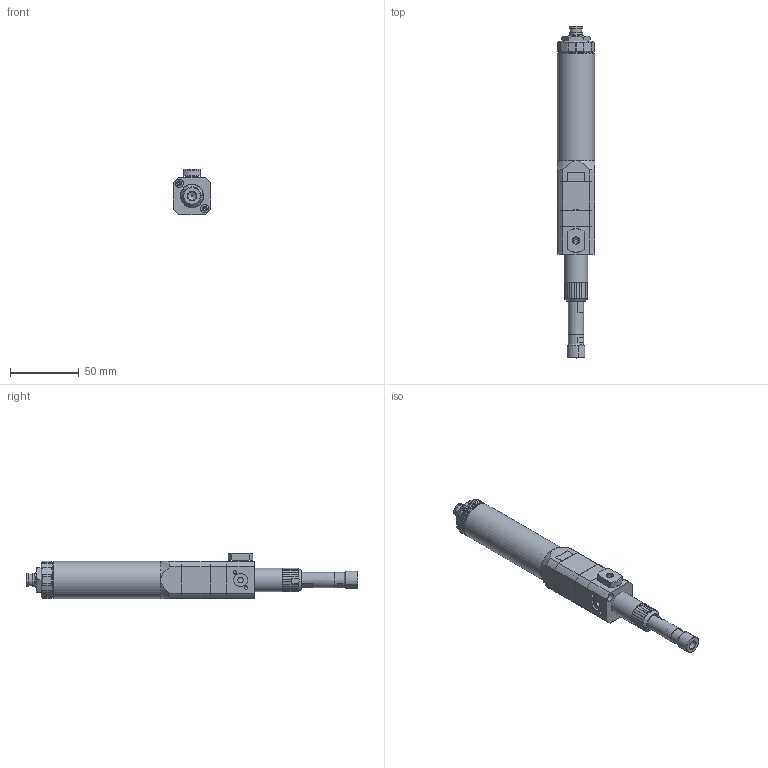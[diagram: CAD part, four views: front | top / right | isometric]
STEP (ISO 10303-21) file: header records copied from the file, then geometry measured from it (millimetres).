
FILE_DESCRIPTION (( 'STEP AP214' ), '1' );
FILE_NAME ('PCPM-005-18.STEP', '2024-10-11T10:27:00', ( '' ), ( '' ), 'SwSTEP 2.0', 'SolidWorks 2024', '' );
FILE_SCHEMA (( 'AUTOMOTIVE_DESIGN' ));
Length unit declared in the file: millimetre
Products named in the file (1): PCPM-005-18
Bounding box: 27 x 241.4 x 32.8 mm (x, y, z)
Volume: 52172.1 mm3; surface area: 50438.4 mm2
Topology: 26 solids, 26 shells, 772 faces, 2016 edges, 1325 vertices
Faces by surface type: plane 315, cylinder 244, cone 195, bspline 15, torus 3
Full cylindrical faces by diameter (mm): 0.4 x1, 1 x5, 2 x1, 2.5 x8, 2.7 x3, 3 x2, 3.5 x10, 4 x2, 4.2 x1, 4.8 x1, 5.2 x1, 5.8 x4, 6 x3, 6.6 x2, 6.8 x1, 7.2 x1, 7.9 x1, 8 x2, 8.1 x1, 8.2 x1, 8.5 x2, 9 x7, 9.6 x2, 9.7 x1, 10 x1, 10.1 x1, 10.5 x1, 10.8 x2, 11 x3, 11.2 x2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
Entity records: 27165 total; most frequent: CARTESIAN_POINT 10393, DIRECTION 3361, ORIENTED_EDGE 3080, EDGE_CURVE 1540, AXIS2_PLACEMENT_3D 1372, VERTEX_POINT 1146, EDGE_LOOP 1144, FACE_OUTER_BOUND 894
